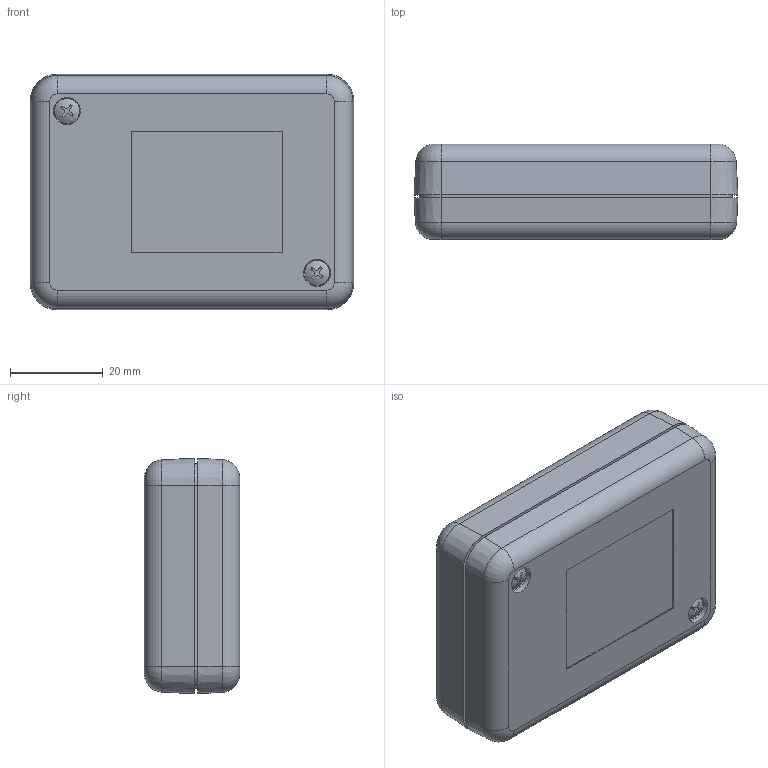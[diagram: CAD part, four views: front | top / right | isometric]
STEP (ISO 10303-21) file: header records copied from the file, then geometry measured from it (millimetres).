
FILE_DESCRIPTION (( 'STEP AP214' ), '1' );
FILE_NAME ('KT-40S0.STEP', '2023-10-05T18:11:56', ( '' ), ( '' ), 'SwSTEP 2.0', 'SolidWorks 2023', '' );
FILE_SCHEMA (( 'AUTOMOTIVE_DESIGN' ));
Length unit declared in the file: inch
Products named in the file (4): KT-40B_KT-40B; SCREWS-HL5-8-BR_default; KT-40C_KT-40SC0; KT-40S0
Assembly tree (4 placements, depth 2):
  KT-40S0
    KT-40B_KT-40B
    KT-40C_KT-40SC0
    SCREWS-HL5-8-BR_default  x2
Bounding box: 69.9 x 20.57 x 50.85 mm (x, y, z)
Volume: 22525.7 mm3; surface area: 22444.4 mm2
Topology: 4 solids, 4 shells, 212 faces, 525 edges, 337 vertices
Faces by surface type: plane 88, cylinder 54, cone 40, torus 20, bspline 8, sphere 2
Full cylindrical faces by diameter (mm): 1.651 x22, 2.929 x2, 4.775 x2
Entity records: 5740 total; most frequent: CARTESIAN_POINT 2117, DIRECTION 775, ORIENTED_EDGE 672, EDGE_CURVE 336, AXIS2_PLACEMENT_3D 301, VERTEX_POINT 223, EDGE_LOOP 191, LINE 173
